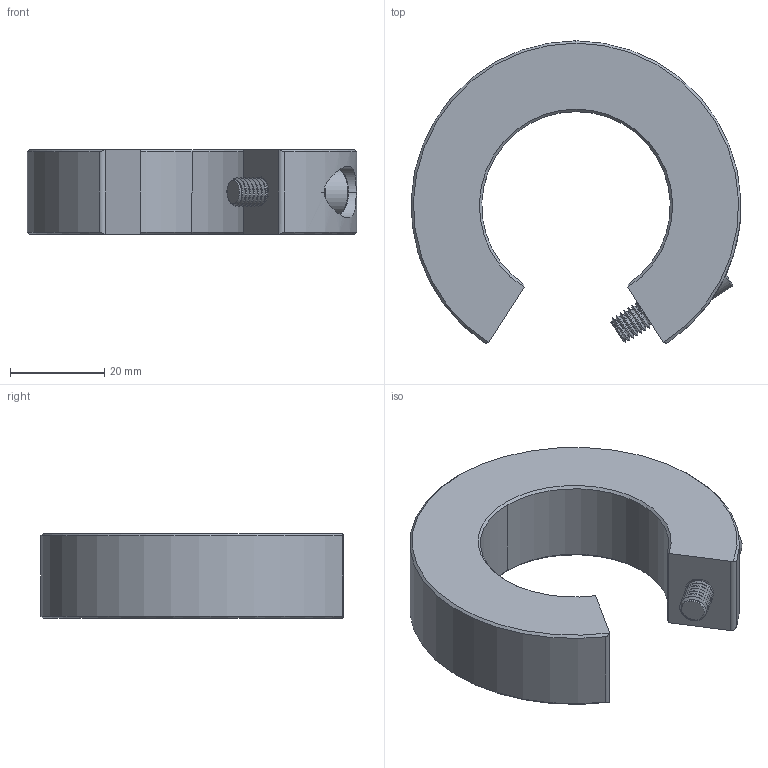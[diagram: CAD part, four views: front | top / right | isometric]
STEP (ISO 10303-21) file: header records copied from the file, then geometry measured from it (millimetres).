
FILE_DESCRIPTION (( 'STEP AP214' ), '1' );
FILE_NAME ('SBR40-FR.STEP', '2026-10-19T12:49:42', ( '' ), ( '' ), 'SwSTEP 2.0', 'SolidWorks 2022', '' );
FILE_SCHEMA (( 'AUTOMOTIVE_DESIGN' ));
Length unit declared in the file: millimetre
Products named in the file (3): SBR40-FR; Винт DIN912 (полуцилиндр) кл. пр. 8.8_М6х20
Assembly tree (2 placements, depth 2):
  SBR40-FR
    SBR40-FR
    Винт DIN912 (полуцилиндр) кл. пр. 8.8_М6х20
Bounding box: 69.93 x 64.13 x 18 mm (x, y, z)
Volume: 37489.5 mm3; surface area: 11269.9 mm2
Topology: 2 solids, 2 shells, 111 faces, 299 edges, 193 vertices
Faces by surface type: cylinder 66, plane 23, cone 11, bspline 7, torus 4
Entity records: 9132 total; most frequent: CARTESIAN_POINT 6641, ORIENTED_EDGE 594, DIRECTION 419, EDGE_CURVE 297, VERTEX_POINT 193, AXIS2_PLACEMENT_3D 156, EDGE_LOOP 116, ADVANCED_FACE 111
